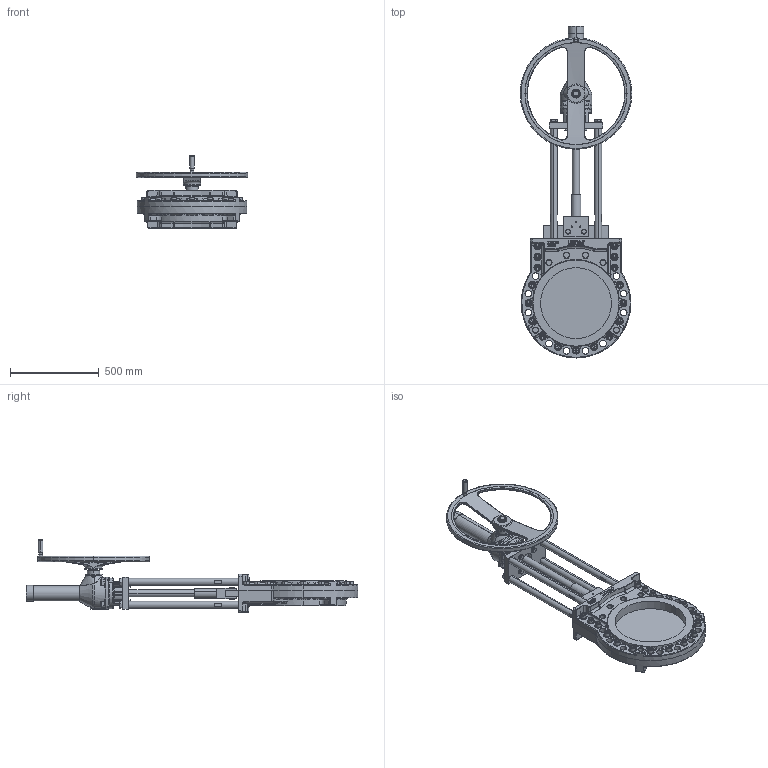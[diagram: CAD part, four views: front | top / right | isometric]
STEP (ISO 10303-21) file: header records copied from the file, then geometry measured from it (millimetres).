
FILE_DESCRIPTION (( 'STEP AP214' ), '1' );
FILE_NAME ('MHA DN 400 GK14.6.STEP', '2015-04-28T08:53:26', ( 'admin' ), ( 'Hewlett-Packard Company' ), 'SwSTEP 2.0', 'SolidWorks 2013', '' );
FILE_SCHEMA (( 'AUTOMOTIVE_DESIGN' ));
Length unit declared in the file: millimetre
Products named in the file (1): MHA DN 400 GK14.6
Bounding box: 630 x 1875 x 411.75 mm (x, y, z)
Volume: 44537673.1 mm3; surface area: 3104069.1 mm2
Topology: 54 solids, 71 shells, 3162 faces, 7550 edges, 4474 vertices
Faces by surface type: plane 1007, cylinder 830, bspline 573, cone 389, torus 353, sphere 10
Entity records: 151160 total; most frequent: CARTESIAN_POINT 46084, ORIENTED_EDGE 14612, DIRECTION 14458, EDGE_CURVE 7306, AXIS2_PLACEMENT_3D 5783, VERTEX_POINT 4474, EDGE_LOOP 3468, UNCERTAINTY_MEASURE_WITH_UNIT 3216
